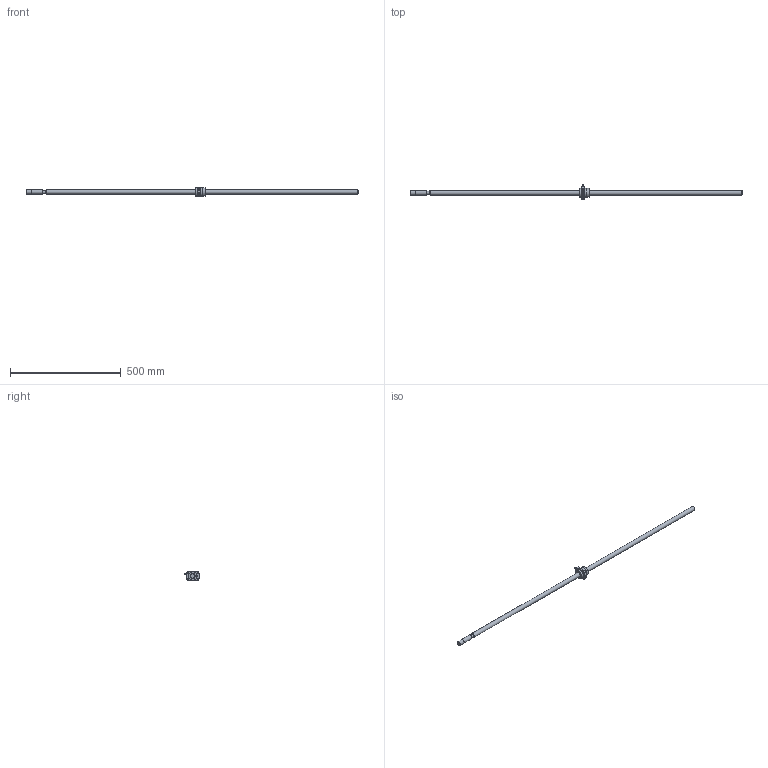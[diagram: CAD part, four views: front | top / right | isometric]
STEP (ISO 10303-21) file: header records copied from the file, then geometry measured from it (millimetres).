
FILE_DESCRIPTION((''),'2;1');
FILE_NAME('D:\製品 (図面)\カタログ用3D\ネジ関連\STEP形式\KBS(C)\KBS2040-1500(H形).stp','2010-06-01T16:54:34',('Tsuchiya'),(''),'Autodesk Inventor 10','Autodesk Inventor 10','');
FILE_SCHEMA(('AUTOMOTIVE_DESIGN { 1 0 10303 214 1 1 1 1 }'));
Length unit declared in the file: millimetre
Products named in the file (3): KBS2040-1500(H形); KBS2040-1500(H形)1; KBS2040-1500(H形)2
Assembly tree (2 placements, depth 2):
  KBS2040-1500(H形)
    KBS2040-1500(H形)1
    KBS2040-1500(H形)2
Bounding box: 1500 x 69.81 x 44 mm (x, y, z)
Volume: 520938.4 mm3; surface area: 108494.4 mm2
Topology: 3 solids, 3 shells, 49 faces, 99 edges, 61 vertices
Faces by surface type: plane 19, cone 11, cylinder 11, bspline 6, sphere 2
Full cylindrical faces by diameter (mm): 7 x1, 13.5 x1, 19.5 x1, 20 x3, 39.5 x2, 40 x1
Entity records: 1360 total; most frequent: CARTESIAN_POINT 376, DIRECTION 204, ORIENTED_EDGE 138, AXIS2_PLACEMENT_3D 95, EDGE_LOOP 90, EDGE_CURVE 69, VERTEX_POINT 55, FACE_OUTER_BOUND 49
